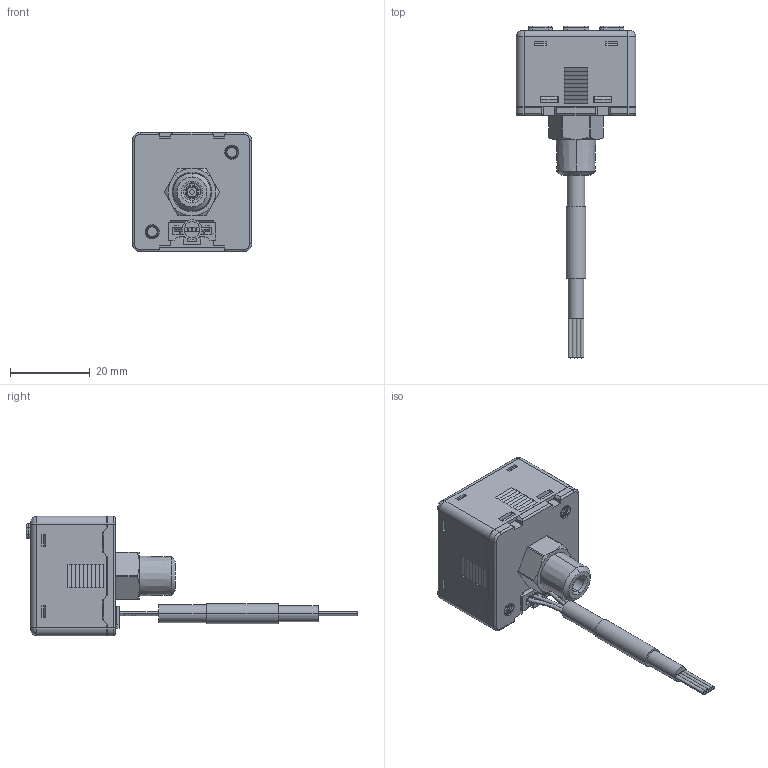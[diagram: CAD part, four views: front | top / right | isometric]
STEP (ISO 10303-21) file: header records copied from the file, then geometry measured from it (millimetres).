
FILE_DESCRIPTION((''),'2;1');
FILE_NAME('KP47_F1','2019-07-08T',('Stark'),(''),'CREO PARAMETRIC BY PTC INC, 2014500','CREO PARAMETRIC BY PTC INC, 2014500','');
FILE_SCHEMA(('CONFIG_CONTROL_DESIGN'));
Length unit declared in the file: millimetre
Products named in the file (1): KP47_F1
Bounding box: 30 x 83.35 x 30 mm (x, y, z)
Volume: 20729.6 mm3; surface area: 7115.9 mm2
Topology: 2 solids, 2 shells, 785 faces, 2002 edges, 1242 vertices
Faces by surface type: plane 594, cylinder 121, bspline 33, torus 19, cone 18
Entity records: 30392 total; most frequent: CARTESIAN_POINT 11705, ORIENTED_EDGE 4004, DIRECTION 3564, EDGE_CURVE 2002, VECTOR 1632, LINE 1632, VERTEX_POINT 1242, AXIS2_PLACEMENT_3D 966
